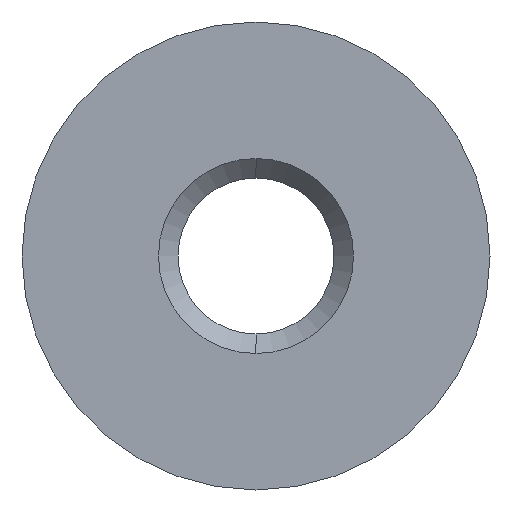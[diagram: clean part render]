
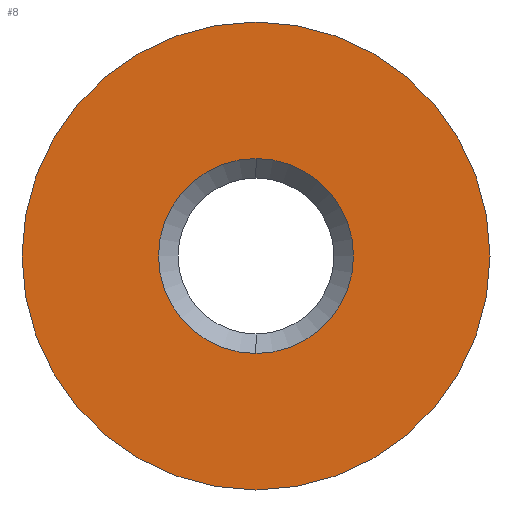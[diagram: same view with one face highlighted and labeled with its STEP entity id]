
A CAD part, left-side view. The second image highlights one B-rep face of the part: STEP entity #8.
In plain terms, the highlighted planar face has unit normal (-1, 0, 0).
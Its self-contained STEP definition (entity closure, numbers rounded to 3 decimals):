
#8 = ADVANCED_FACE ( 'NONE', ( #533, #125 ), #262, .T. ) ;
#31 = DIRECTION ( 'NONE',  ( -1., 0., 0. ) ) ;
#32 = CIRCLE ( 'NONE', #188, 2.4 ) ;
#69 = EDGE_CURVE ( 'NONE', #122, #670, #271, .T. ) ;
#114 = CARTESIAN_POINT ( 'NONE',  ( -3.9, 0., -1. ) ) ;
#122 = VERTEX_POINT ( 'NONE', #432 ) ;
#125 = FACE_OUTER_BOUND ( 'NONE', #168, .T. ) ;
#147 = DIRECTION ( 'NONE',  ( 1., 0., 0. ) ) ;
#168 = EDGE_LOOP ( 'NONE', ( #389, #223 ) ) ;
#188 = AXIS2_PLACEMENT_3D ( 'NONE', #260, #739, #794 ) ;
#195 = CARTESIAN_POINT ( 'NONE',  ( -3.9, 0.8, 0. ) ) ;
#213 = EDGE_LOOP ( 'NONE', ( #272, #368 ) ) ;
#216 = CIRCLE ( 'NONE', #776, 1. ) ;
#223 = ORIENTED_EDGE ( 'NONE', *, *, #741, .T. ) ;
#227 = CARTESIAN_POINT ( 'NONE',  ( -3.9, 0., 0. ) ) ;
#228 = VERTEX_POINT ( 'NONE', #114 ) ;
#260 = CARTESIAN_POINT ( 'NONE',  ( -3.9, 0., 0. ) ) ;
#262 = PLANE ( 'NONE',  #401 ) ;
#264 = DIRECTION ( 'NONE',  ( 0., 0., 1. ) ) ;
#271 = CIRCLE ( 'NONE', #466, 2.4 ) ;
#272 = ORIENTED_EDGE ( 'NONE', *, *, #454, .T. ) ;
#292 = CARTESIAN_POINT ( 'NONE',  ( -3.9, 0., 0. ) ) ;
#307 = AXIS2_PLACEMENT_3D ( 'NONE', #730, #328, #264 ) ;
#328 = DIRECTION ( 'NONE',  ( 1., 0., 0. ) ) ;
#354 = DIRECTION ( 'NONE',  ( 0., 0., 1. ) ) ;
#360 = CARTESIAN_POINT ( 'NONE',  ( -3.9, 0., 1. ) ) ;
#368 = ORIENTED_EDGE ( 'NONE', *, *, #582, .T. ) ;
#389 = ORIENTED_EDGE ( 'NONE', *, *, #69, .T. ) ;
#401 = AXIS2_PLACEMENT_3D ( 'NONE', #195, #657, #792 ) ;
#432 = CARTESIAN_POINT ( 'NONE',  ( -3.9, 0., 2.4 ) ) ;
#454 = EDGE_CURVE ( 'NONE', #669, #228, #682, .T. ) ;
#466 = AXIS2_PLACEMENT_3D ( 'NONE', #227, #31, #354 ) ;
#533 = FACE_BOUND ( 'NONE', #213, .T. ) ;
#555 = DIRECTION ( 'NONE',  ( 0., 0., 1. ) ) ;
#582 = EDGE_CURVE ( 'NONE', #228, #669, #216, .T. ) ;
#633 = CARTESIAN_POINT ( 'NONE',  ( -3.9, 0., -2.4 ) ) ;
#657 = DIRECTION ( 'NONE',  ( -1., 0., 0. ) ) ;
#669 = VERTEX_POINT ( 'NONE', #360 ) ;
#670 = VERTEX_POINT ( 'NONE', #633 ) ;
#682 = CIRCLE ( 'NONE', #307, 1. ) ;
#730 = CARTESIAN_POINT ( 'NONE',  ( -3.9, 0., 0. ) ) ;
#739 = DIRECTION ( 'NONE',  ( -1., 0., 0. ) ) ;
#741 = EDGE_CURVE ( 'NONE', #670, #122, #32, .T. ) ;
#776 = AXIS2_PLACEMENT_3D ( 'NONE', #292, #147, #555 ) ;
#792 = DIRECTION ( 'NONE',  ( 0., 0., 1. ) ) ;
#794 = DIRECTION ( 'NONE',  ( 0., 0., 1. ) ) ;
